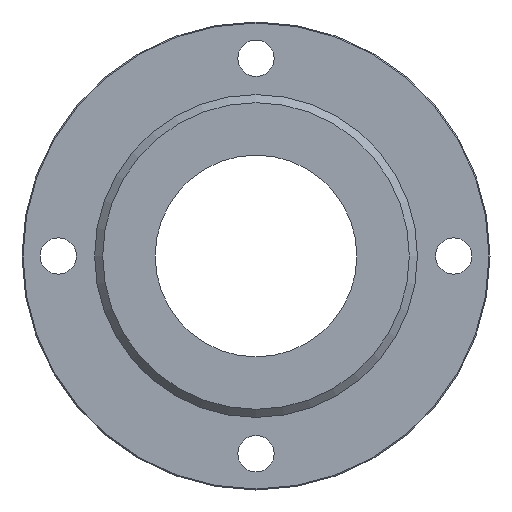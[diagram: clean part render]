
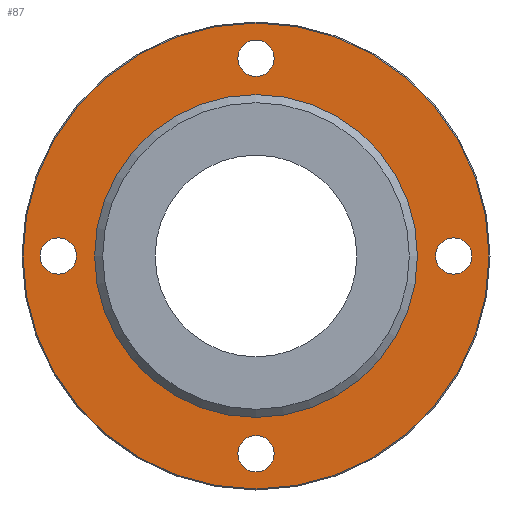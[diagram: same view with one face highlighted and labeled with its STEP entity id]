
A CAD part, left-side view. The second image highlights one B-rep face of the part: STEP entity #87.
In plain terms, the highlighted planar face has unit normal (-1, 0, 0).
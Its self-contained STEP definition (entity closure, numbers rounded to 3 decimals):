
#87=ADVANCED_FACE('',(#140,#141,#142,#143,#144,#145),#146,.F.);
#140=FACE_OUTER_BOUND('',#220,.T.);
#141=FACE_BOUND('',#221,.T.);
#142=FACE_BOUND('',#222,.T.);
#143=FACE_BOUND('',#223,.T.);
#144=FACE_BOUND('',#224,.T.);
#145=FACE_BOUND('',#225,.T.);
#146=PLANE('',#226);
#220=EDGE_LOOP('',(#324));
#221=EDGE_LOOP('',(#325));
#222=EDGE_LOOP('',(#326));
#223=EDGE_LOOP('',(#327));
#224=EDGE_LOOP('',(#328));
#225=EDGE_LOOP('',(#329));
#226=AXIS2_PLACEMENT_3D('',#330,#331,#332);
#324=ORIENTED_EDGE('',*,*,#405,.T.);
#325=ORIENTED_EDGE('',*,*,#406,.T.);
#326=ORIENTED_EDGE('',*,*,#407,.T.);
#327=ORIENTED_EDGE('',*,*,#408,.T.);
#328=ORIENTED_EDGE('',*,*,#409,.T.);
#329=ORIENTED_EDGE('',*,*,#398,.T.);
#330=CARTESIAN_POINT('',(-18.0,57.746,0.0));
#331=DIRECTION('',(1.0,0.0,0.0));
#332=DIRECTION('',(0.0,0.0,-1.0));
#398=EDGE_CURVE('',#436,#436,#437,.T.);
#405=EDGE_CURVE('',#450,#450,#451,.T.);
#406=EDGE_CURVE('',#452,#452,#453,.T.);
#407=EDGE_CURVE('',#454,#454,#455,.T.);
#408=EDGE_CURVE('',#456,#456,#457,.T.);
#409=EDGE_CURVE('',#458,#458,#459,.T.);
#436=VERTEX_POINT('',#492);
#437=CIRCLE('',#493,40.0);
#450=VERTEX_POINT('',#506);
#451=CIRCLE('',#507,57.746);
#452=VERTEX_POINT('',#508);
#453=CIRCLE('',#509,4.5);
#454=VERTEX_POINT('',#510);
#455=CIRCLE('',#511,4.5);
#456=VERTEX_POINT('',#512);
#457=CIRCLE('',#513,4.5);
#458=VERTEX_POINT('',#514);
#459=CIRCLE('',#515,4.5);
#492=CARTESIAN_POINT('',(-18.0,0.,-40.0));
#493=AXIS2_PLACEMENT_3D('',#558,#559,#560);
#506=CARTESIAN_POINT('',(-18.0,0.,57.746));
#507=AXIS2_PLACEMENT_3D('',#579,#580,#581);
#508=CARTESIAN_POINT('',(-18.0,49.0,-4.5));
#509=AXIS2_PLACEMENT_3D('',#582,#583,#584);
#510=CARTESIAN_POINT('',(-18.0,0.,44.5));
#511=AXIS2_PLACEMENT_3D('',#585,#586,#587);
#512=CARTESIAN_POINT('',(-18.0,-49.0,-4.5));
#513=AXIS2_PLACEMENT_3D('',#588,#589,#590);
#514=CARTESIAN_POINT('',(-18.0,0.,-53.5));
#515=AXIS2_PLACEMENT_3D('',#591,#592,#593);
#558=CARTESIAN_POINT('',(-18.0,0.,0.0));
#559=DIRECTION('',(1.0,0.0,0.0));
#560=DIRECTION('',(0.0,0.0,-1.0));
#579=CARTESIAN_POINT('',(-18.0,0.,0.0));
#580=DIRECTION('',(-1.0,0.0,0.0));
#581=DIRECTION('',(0.0,0.0,1.0));
#582=CARTESIAN_POINT('',(-18.0,49.0,0.0));
#583=DIRECTION('',(1.0,0.0,0.0));
#584=DIRECTION('',(0.0,0.0,-1.0));
#585=CARTESIAN_POINT('',(-18.0,0.,49.0));
#586=DIRECTION('',(1.0,0.0,0.0));
#587=DIRECTION('',(0.0,0.0,-1.0));
#588=CARTESIAN_POINT('',(-18.0,-49.0,0.));
#589=DIRECTION('',(1.0,0.0,0.0));
#590=DIRECTION('',(0.0,0.0,-1.0));
#591=CARTESIAN_POINT('',(-18.0,0.,-49.0));
#592=DIRECTION('',(1.0,0.0,0.0));
#593=DIRECTION('',(0.0,0.0,-1.0));
